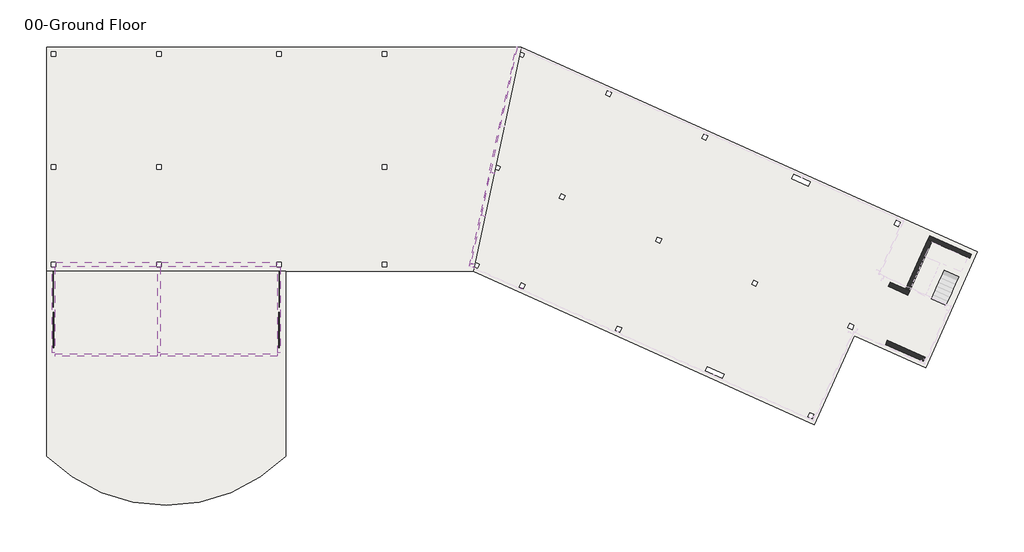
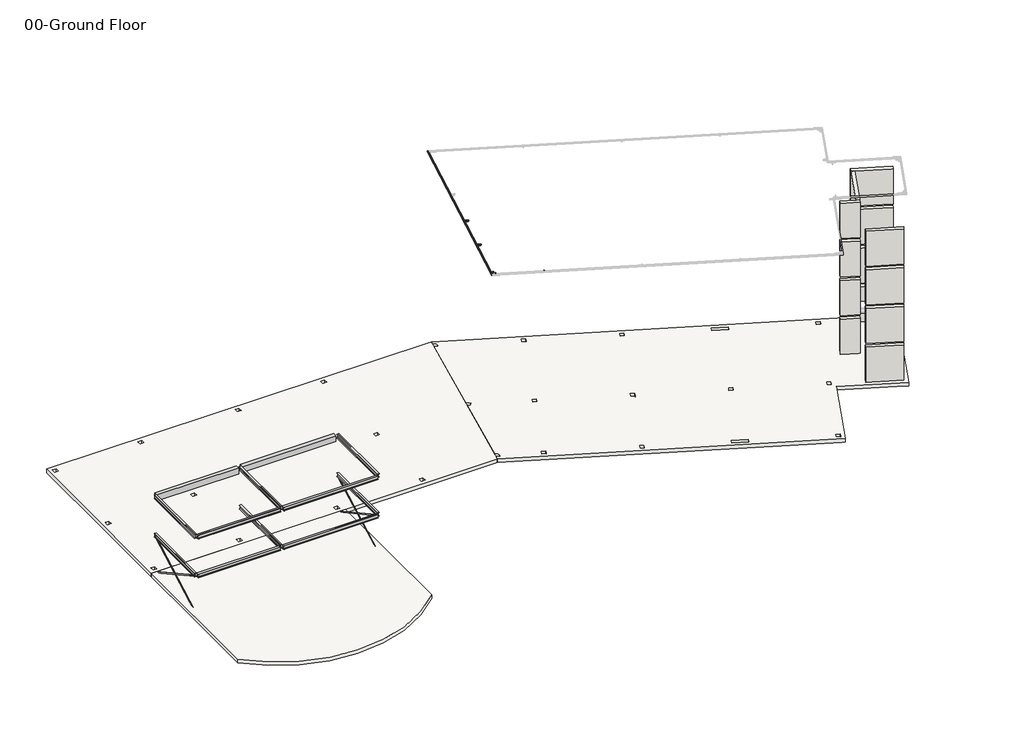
# One storey, part 1 of 3: 18 beams, 4 members, 4 walls, 3 slabs.
"""IFC4 building model written with IfcOpenShell, lengths in millimetres."""

from ifc_helpers import new_model, si_unit, frame, origin, origin_with_axes, place, context, project, spatial, polyline, circle_curve, ellipse_curve, outline, extrude, faceted_brep, transform, mapped, element, save
from ifc_brep_helpers import plane_surface, cylinder_surface, revolved_surface, advanced_brep
from components import hss_hollow_structural_section_hss3x2x1_8_139d3190, hss_hollow_structural_section_hss3x2x1_8_24952963, hss_hollow_structural_section_hss3x2x1_8_7ccaf686, hss_hollow_structural_section_hss3x2x1_8_c5a4428d, w_shapes_w12x26_597c9bcb, w_shapes_w12x26_85c0d87e, w_shapes_w12x26_268029d0, w_shapes_w12x26_8135fd55, flat_bars_fl_3_8x4_f1b121f7, flat_bars_fl_3_8x4_35c656aa, flat_bars_fl_3_8x4_188fb4ee, flat_bars_fl_3_8x4_168c0369

model = new_model("IFC4")

# Units and contexts
model_context = context("Model", 3, world=origin())
ifc_project = project(units=[si_unit("LENGTHUNIT", "METRE", prefix="MILLI")], contexts=[model_context])

# Site, building, storey
site = spatial("IfcSite", under=ifc_project)
building = spatial("IfcBuilding", under=site)
storey = spatial("IfcBuildingStorey", under=building, Name="00-Ground Floor", Elevation=0.0)

# Beams
placement = place(None, origin())
element("IfcBeam", 1, ObjectType="Concrete-Rectangular Beam : 12 x 24", at=placement, inside=storey, context=model_context, shape_type="SweptSolid", body=[
    extrude(outline(polyline([(152.4, -14147.8), (152.4, -13843.0), (6858.0, -13843.0), (6858.0, -14147.8), (152.4, -14147.8)])), frame((0.0, 0.0, 5892.8), z_axis=(0.0, 0.0, 1.0), x_axis=(1.0, 0.0, 0.0)), (0.0, 0.0, 1.0), 508.0),
])
element("IfcBeam", 2, ObjectType="Concrete-Rectangular Beam : 12 x 24", at=placement, inside=storey, context=model_context, shape_type="SweptSolid", body=[
    extrude(outline(polyline([(14846.3, -13843.0), (14846.3, -14147.8), (7162.8, -14147.8), (7162.8, -13843.0), (14846.3, -13843.0)])), frame((0.0, 0.0, 5892.8), z_axis=(0.0, 0.0, 1.0), x_axis=(1.0, 0.0, 0.0)), (0.0, 0.0, 1.0), 508.0),
])
hss_hollow_structural_section_hss3x2x1_8_shape = hss_hollow_structural_section_hss3x2x1_8_139d3190(model_context)
element("IfcBeam", 3, ObjectType="HSS-Hollow Structural Section : HSS3X2X1/8", at=placement, inside=storey, context=model_context, shape_type="MappedRepresentation", body=[
    mapped(hss_hollow_structural_section_hss3x2x1_8_shape, transform((28553.1839899, -10746.3611508, 16083.2409028), x_axis=(0.9777434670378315, -0.20951645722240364, 0.010980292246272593), y_axis=(0.20870511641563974, 0.9766389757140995, 0.05117113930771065), z_axis=(-0.021444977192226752, -0.04774060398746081, 0.9986295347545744))),
])
element("IfcBeam", 4, ObjectType="HSS-Hollow Structural Section : HSS3X2X1/8", at=placement, inside=storey, context=model_context, shape_type="MappedRepresentation", body=[
    mapped(hss_hollow_structural_section_hss3x2x1_8_shape, transform((29163.4667864, -7890.5329109, 16232.8724333), x_axis=(0.9777434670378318, -0.20951645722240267, 0.010980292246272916), y_axis=(0.20870511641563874, 0.9766389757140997, 0.05117113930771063), z_axis=(-0.021444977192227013, -0.04774060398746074, 0.9986295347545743))),
])
hss_hollow_structural_section_hss3x2x1_8_2_shape = hss_hollow_structural_section_hss3x2x1_8_24952963(model_context)
element("IfcBeam", 5, ObjectType="HSS-Hollow Structural Section : HSS3X2X1/8", at=placement, inside=storey, context=model_context, shape_type="MappedRepresentation", body=[
    mapped(hss_hollow_structural_section_hss3x2x1_8_2_shape, transform((31113.9933399, -15523.9075304, 15909.8368069), x_axis=(-0.40919454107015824, -0.9109449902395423, -0.05233595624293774), y_axis=(0.9121951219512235, -0.409756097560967, 0.0), z_axis=(-0.021444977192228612, -0.0477406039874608, 0.9986295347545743))),
])
hss_hollow_structural_section_hss3x2x1_8_3_shape = hss_hollow_structural_section_hss3x2x1_8_7ccaf686(model_context)
element("IfcBeam", 6, ObjectType="HSS-Hollow Structural Section : HSS3X2X1/8", at=placement, inside=storey, context=model_context, shape_type="MappedRepresentation", body=[
    mapped(hss_hollow_structural_section_hss3x2x1_8_3_shape, transform((27860.6590059, -13959.5725396, 15914.7581682), x_axis=(-0.9777434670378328, 0.209516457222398, -0.010980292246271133), y_axis=(-0.20870511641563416, -0.9766389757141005, -0.05117113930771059), z_axis=(-0.021444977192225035, -0.047740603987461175, 0.9986295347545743))),
])
hss_hollow_structural_section_hss3x2x1_8_4_shape = hss_hollow_structural_section_hss3x2x1_8_c5a4428d(model_context)
element("IfcBeam", 7, ObjectType="HSS-Hollow Structural Section : HSS3X2X1/8", at=placement, inside=storey, context=model_context, shape_type="MappedRepresentation", body=[
    mapped(hss_hollow_structural_section_hss3x2x1_8_4_shape, transform((27952.9662678, -14104.0086143, 15909.8354835), x_axis=(-0.40919454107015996, -0.9109449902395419, -0.05233595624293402), y_axis=(0.9121951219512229, -0.40975609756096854, 0.0), z_axis=(-0.02144497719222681, -0.0477406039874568, 0.9986295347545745))),
])
element("IfcBeam", 8, ObjectType="HSS-Hollow Structural Section : HSS5X2X1/8", at=placement, inside=storey, context=model_context, shape_type="AdvancedBrep", body=[
    advanced_brep(
    [(30775.5166497, 477.596911, 16705.6903584), (30771.4031294, 486.233955, 16700.1140396), (27647.3085375, -14133.0173345, 15934.13627), (27653.9377637, -14129.882092, 15940.3293994), (30803.5876534, 422.2762939, 16703.6485024), (27698.6644754, -14107.262053, 15942.3712554), (30807.9539155, 414.2019015, 16697.455373), (27705.5464435, -14103.5641587, 15936.7949366), (30810.4246857, 419.7023065, 16582.3988703), (27708.0172137, -14098.0637537, 15821.7384339), (30806.3111655, 428.3393506, 16576.8225515), (27701.3879876, -14101.1989963, 15815.5453044), (30778.2401618, 483.6599677, 16578.8644074), (27656.6612758, -14123.8190353, 15813.5034485), (30773.8738996, 491.73436, 16585.0575369), (27649.7793077, -14127.5169295, 15819.0797673), (30775.5798351, 477.7375739, 16702.7479963), (30803.6508388, 422.4169568, 16700.7061404), (27698.7276609, -14107.1213901, 15939.4288933), (27654.0009491, -14129.7414291, 15937.3870374), (30773.523075, 482.0560959, 16699.9598369), (27650.6863361, -14131.3090503, 15934.2904726), (30775.9938452, 487.5565009, 16584.9033342), (27653.1571062, -14125.8086453, 15819.23397), (30778.1769763, 483.5193048, 16581.8067695), (27656.5980903, -14123.9596982, 15816.4458106), (30806.24798, 428.1986877, 16579.7649136), (27701.3248021, -14101.3396592, 15818.4876665), (30808.3047401, 423.8801657, 16582.553073), (27704.6394151, -14099.7720379, 15821.5842312), (30805.8339699, 418.3797606, 16697.6095756), (27702.168645, -14105.2724429, 15936.6407339)],
    [
        (0, 1, ellipse_curve(frame((30775.6430206, 477.8782368, 16699.8056342), z_axis=(-0.89162974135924, -0.4509318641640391, -0.04070452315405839), x_axis=(-0.45225713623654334, 0.8912807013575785, 0.0328967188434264)), 9.3749569, 5.8928)),
        (1, 2),
        (2, 3, ellipse_curve(frame((27654.0641346, -14129.6007661, 15934.4446753), z_axis=(-0.452257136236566, 0.8912807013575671, 0.03289671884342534), x_axis=(0.8916297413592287, 0.45093186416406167, 0.04070452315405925)), 7.5766843, 5.8928)),
        (3, 0),
        (4, 0),
        (3, 5),
        (5, 4),
        (6, 4, ellipse_curve(frame((30803.7140243, 422.5576197, 16697.7637783), z_axis=(-0.89162974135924, -0.4509318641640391, -0.04070452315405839), x_axis=(-0.45225713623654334, 0.8912807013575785, 0.0328967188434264)), 9.3749569, 5.8928)),
        (5, 7, ellipse_curve(frame((27698.7908464, -14106.9807271, 15936.4865312), z_axis=(-0.452257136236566, 0.8912807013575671, 0.03289671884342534), x_axis=(0.8916297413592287, 0.45093186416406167, 0.04070452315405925)), 7.5766843, 5.8928)),
        (7, 6),
        (8, 6),
        (7, 9),
        (9, 8),
        (10, 8, ellipse_curve(frame((30806.1847945, 428.0580248, 16582.7072756), z_axis=(-0.89162974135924, -0.4509318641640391, -0.04070452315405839), x_axis=(-0.45225713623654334, 0.8912807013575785, 0.0328967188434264)), 9.3749569, 5.8928)),
        (9, 11, ellipse_curve(frame((27701.2616166, -14101.4803221, 15821.4300286), z_axis=(-0.452257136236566, 0.8912807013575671, 0.03289671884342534), x_axis=(0.8916297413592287, 0.45093186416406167, 0.04070452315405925)), 7.5766843, 5.8928)),
        (11, 10),
        (12, 10),
        (11, 13),
        (13, 12),
        (14, 12, ellipse_curve(frame((30778.1137908, 483.3786418, 16584.7491316), z_axis=(-0.89162974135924, -0.4509318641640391, -0.04070452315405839), x_axis=(-0.45225713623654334, 0.8912807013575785, 0.0328967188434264)), 9.3749569, 5.8928)),
        (13, 15, ellipse_curve(frame((27656.5349048, -14124.1003611, 15819.3881726), z_axis=(-0.452257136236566, 0.8912807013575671, 0.03289671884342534), x_axis=(0.8916297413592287, 0.45093186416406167, 0.04070452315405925)), 7.5766843, 5.8928)),
        (15, 14),
        (1, 14),
        (15, 2),
        (16, 17),
        (17, 18),
        (18, 19),
        (19, 16),
        (20, 16, ellipse_curve(frame((30775.6430206, 477.8782368, 16699.8056342), z_axis=(0.89162974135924, 0.4509318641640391, 0.04070452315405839), x_axis=(0.45225713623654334, -0.8912807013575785, -0.0328967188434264)), 4.6874785, 2.9464)),
        (19, 21, ellipse_curve(frame((27654.0641346, -14129.6007661, 15934.4446753), z_axis=(0.452257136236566, -0.8912807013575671, -0.03289671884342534), x_axis=(-0.8916297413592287, -0.45093186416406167, -0.04070452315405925)), 3.7883422, 2.9464)),
        (21, 20),
        (22, 20),
        (21, 23),
        (23, 22),
        (24, 22, ellipse_curve(frame((30778.1137908, 483.3786418, 16584.7491316), z_axis=(0.89162974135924, 0.4509318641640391, 0.04070452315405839), x_axis=(0.45225713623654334, -0.8912807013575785, -0.0328967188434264)), 4.6874785, 2.9464)),
        (23, 25, ellipse_curve(frame((27656.5349048, -14124.1003611, 15819.3881726), z_axis=(0.452257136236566, -0.8912807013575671, -0.03289671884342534), x_axis=(-0.8916297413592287, -0.45093186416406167, -0.04070452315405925)), 3.7883422, 2.9464)),
        (25, 24),
        (26, 24),
        (25, 27),
        (27, 26),
        (28, 26, ellipse_curve(frame((30806.1847945, 428.0580248, 16582.7072756), z_axis=(0.89162974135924, 0.4509318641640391, 0.04070452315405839), x_axis=(0.45225713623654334, -0.8912807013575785, -0.0328967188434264)), 4.6874785, 2.9464)),
        (27, 29, ellipse_curve(frame((27701.2616166, -14101.4803221, 15821.4300286), z_axis=(0.452257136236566, -0.8912807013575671, -0.03289671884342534), x_axis=(-0.8916297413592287, -0.45093186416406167, -0.04070452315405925)), 3.7883422, 2.9464)),
        (29, 28),
        (30, 28),
        (29, 31),
        (31, 30),
        (17, 30, ellipse_curve(frame((30803.7140243, 422.5576197, 16697.7637783), z_axis=(0.89162974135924, 0.4509318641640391, 0.04070452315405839), x_axis=(0.45225713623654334, -0.8912807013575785, -0.0328967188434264)), 4.6874785, 2.9464)),
        (31, 18, ellipse_curve(frame((27698.7908464, -14106.9807271, 15936.4865312), z_axis=(0.452257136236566, -0.8912807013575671, -0.03289671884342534), x_axis=(-0.8916297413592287, -0.45093186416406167, -0.04070452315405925)), 3.7883422, 2.9464)),
    ],
    [
        cylinder_surface(frame((30770.6054851, 454.3050077, 16698.5705115), z_axis=(0.2087051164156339, 0.9766389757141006, 0.05117113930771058), x_axis=(0.9777434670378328, -0.20951645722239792, 0.010980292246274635)), 5.8928),
        plane_surface(frame((30770.4791142, 454.0236819, 16704.4552356), z_axis=(-0.02144497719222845, -0.04774060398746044, 0.9986295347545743), x_axis=(-0.2087051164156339, -0.9766389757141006, -0.05117113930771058))),
        cylinder_surface(frame((30808.7515598, 446.1308488, 16698.998901), z_axis=(0.2087051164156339, 0.9766389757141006, 0.05117113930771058), x_axis=(0.9777434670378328, -0.20951645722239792, 0.010980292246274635)), 5.8928),
        plane_surface(frame((30814.5132065, 444.8962102, 16699.0636057), z_axis=(0.9777434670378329, -0.20951645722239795, 0.010980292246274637), x_axis=(-0.2087051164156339, -0.9766389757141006, -0.05117113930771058))),
        cylinder_surface(frame((30811.22233, 451.6312539, 16583.9423984), z_axis=(0.2087051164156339, 0.9766389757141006, 0.05117113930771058), x_axis=(0.9777434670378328, -0.20951645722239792, 0.010980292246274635)), 5.8928),
        plane_surface(frame((30811.348701, 451.9125797, 16578.0576742), z_axis=(0.02144497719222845, 0.04774060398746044, -0.9986295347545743), x_axis=(-0.2087051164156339, -0.9766389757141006, -0.05117113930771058))),
        cylinder_surface(frame((30773.0762553, 459.8054127, 16583.5140088), z_axis=(0.2087051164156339, 0.9766389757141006, 0.05117113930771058), x_axis=(0.9777434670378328, -0.20951645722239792, 0.010980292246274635)), 5.8928),
        plane_surface(frame((30767.3146086, 461.0400513, 16583.4493042), z_axis=(-0.9777434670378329, 0.20951645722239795, -0.010980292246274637), x_axis=(-0.2087051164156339, -0.9766389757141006, -0.05117113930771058))),
        plane_surface(frame((30808.6883744, 445.9901859, 16701.9412631), z_axis=(0.02144497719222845, 0.04774060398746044, -0.9986295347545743), x_axis=(-0.2087051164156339, -0.9766389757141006, -0.05117113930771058))),
        revolved_surface(polyline([(27656.44798275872, -14132.54368889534, 15934.355177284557), (30779.284721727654, 480.82145733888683, 16700.024541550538)]), (30770.6054851, 454.3050077, 16698.5705115), (-0.2087051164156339, -0.9766389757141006, -0.05117113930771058)),
        plane_surface(frame((30767.7246618, 454.922327, 16698.5381592), z_axis=(0.9777434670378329, -0.20951645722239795, 0.010980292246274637), x_axis=(-0.2087051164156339, -0.9766389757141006, -0.05117113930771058))),
        revolved_surface(polyline([(27658.91875295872, -14127.04328389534, 15819.29867458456), (30781.75549192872, 486.3218623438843, 16584.968038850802)]), (30773.0762553, 459.8054127, 16583.5140088), (-0.2087051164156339, -0.9766389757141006, -0.05117113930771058)),
        plane_surface(frame((30773.1394408, 459.9460756, 16580.5716468), z_axis=(-0.02144497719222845, -0.04774060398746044, 0.9986295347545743), x_axis=(-0.2087051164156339, -0.9766389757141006, -0.05117113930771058))),
        revolved_surface(polyline([(27703.64546471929, -14104.423244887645, 15821.340530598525), (30809.826495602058, 431.00124534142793, 16582.92618300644)]), (30811.22233, 451.6312539, 16583.9423984), (-0.2087051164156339, -0.9766389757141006, -0.05117113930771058)),
        plane_surface(frame((30814.1031534, 451.0139346, 16583.9747507), z_axis=(-0.9777434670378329, 0.20951645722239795, -0.010980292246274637), x_axis=(-0.2087051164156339, -0.9766389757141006, -0.05117113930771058))),
        revolved_surface(polyline([(27701.174694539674, -14109.923649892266, 15936.397033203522), (30807.355725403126, 425.5008402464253, 16697.9826856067)]), (30808.7515598, 446.1308488, 16698.998901), (-0.2087051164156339, -0.9766389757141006, -0.05117113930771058)),
        plane_surface(frame((27703.7859653, -14107.4833186, 16018.7752312), z_axis=(0.4522571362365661, -0.8912807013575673, -0.03289671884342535), x_axis=(0.8918875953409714, 0.45194939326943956, 0.016681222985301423))),
        plane_surface(frame((30806.1934373, 410.2827416, 16779.4356677), z_axis=(0.8916297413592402, 0.4509318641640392, 0.0407045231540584), x_axis=(0.4527652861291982, -0.8880191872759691, -0.08015933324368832))),
    ],
    [
        (0, [[1, 2, 3, 4]]),
        (1, [[5, -4, 6, 7]]),
        (2, [[8, -7, 9, 10]]),
        (3, [[11, -10, 12, 13]]),
        (4, [[14, -13, 15, 16]]),
        (5, [[17, -16, 18, 19]]),
        (6, [[20, -19, 21, 22]]),
        (7, [[23, -22, 24, -2]]),
        (8, [[25, 26, 27, 28]]),
        (9, [[29, -28, 30, 31]]),
        (10, [[32, -31, 33, 34]]),
        (11, [[35, -34, 36, 37]]),
        (12, [[38, -37, 39, 40]]),
        (13, [[41, -40, 42, 43]]),
        (14, [[44, -43, 45, 46]]),
        (15, [[47, -46, 48, -26]]),
        (16, [[-24, -21, -18, -15, -12, -9, -6, -3], [-48, -45, -42, -39, -36, -33, -30, -27]]),
        (17, [[-1, -5, -8, -11, -14, -17, -20, -23], [-25, -29, -32, -35, -38, -41, -44, -47]]),
    ],
),
])
w_shapes_w12x26_shape = w_shapes_w12x26_597c9bcb(model_context)
element("IfcBeam", 9, ObjectType="W Shapes : W12X26", at=placement, inside=storey, context=model_context, shape_type="MappedRepresentation", body=[
    mapped(w_shapes_w12x26_shape, transform((14998.7, -16998.95, 2994.66), x_axis=(0.0, -1.0, 0.0), y_axis=(1.0, 0.0, 0.0), z_axis=(0.0, 0.0, 1.0))),
])
element("IfcBeam", 10, ObjectType="W Shapes : W12X26", at=placement, inside=storey, context=model_context, shape_type="MappedRepresentation", body=[
    mapped(w_shapes_w12x26_shape, transform((14998.7, -16998.95, 6347.46), x_axis=(0.0, -1.0, 0.0), y_axis=(1.0, 0.0, 0.0), z_axis=(0.0, 0.0, 1.0))),
])
w_shapes_w12x26_2_shape = w_shapes_w12x26_85c0d87e(model_context)
element("IfcBeam", 11, ObjectType="W Shapes : W12X26", at=placement, inside=storey, context=model_context, shape_type="MappedRepresentation", body=[
    mapped(w_shapes_w12x26_2_shape, transform((11004.55, -20002.5, 2994.66), x_axis=(-1.0, 0.0, 0.0), y_axis=(0.0, -1.0, 0.0), z_axis=(0.0, 0.0, 1.0))),
])
element("IfcBeam", 12, ObjectType="W Shapes : W12X26", at=placement, inside=storey, context=model_context, shape_type="MappedRepresentation", body=[
    mapped(w_shapes_w12x26_2_shape, transform((11004.55, -20002.5, 6347.46), x_axis=(-1.0, 0.0, 0.0), y_axis=(0.0, -1.0, 0.0), z_axis=(0.0, 0.0, 1.0))),
])
w_shapes_w12x26_3_shape = w_shapes_w12x26_268029d0(model_context)
element("IfcBeam", 13, ObjectType="W Shapes : W12X26", at=placement, inside=storey, context=model_context, shape_type="MappedRepresentation", body=[
    mapped(w_shapes_w12x26_3_shape, transform((7010.4, -16998.95, 2994.66), x_axis=(0.0, 1.0, 0.0), y_axis=(-1.0, 0.0, 0.0), z_axis=(0.0, 0.0, 1.0))),
])
element("IfcBeam", 14, ObjectType="W Shapes : W12X26", at=placement, inside=storey, context=model_context, shape_type="MappedRepresentation", body=[
    mapped(w_shapes_w12x26_3_shape, transform((0.0, -16998.95, 2994.66), x_axis=(0.0, 1.0, 0.0), y_axis=(-1.0, 0.0, 0.0), z_axis=(0.0, 0.0, 1.0))),
])
element("IfcBeam", 15, ObjectType="W Shapes : W12X26", at=placement, inside=storey, context=model_context, shape_type="MappedRepresentation", body=[
    mapped(w_shapes_w12x26_3_shape, transform((7010.4, -16998.95, 6347.46), x_axis=(0.0, 1.0, 0.0), y_axis=(-1.0, 0.0, 0.0), z_axis=(0.0, 0.0, 1.0))),
])
element("IfcBeam", 16, ObjectType="W Shapes : W12X26", at=placement, inside=storey, context=model_context, shape_type="MappedRepresentation", body=[
    mapped(w_shapes_w12x26_3_shape, transform((0.0, -16998.95, 6347.46), x_axis=(0.0, 1.0, 0.0), y_axis=(-1.0, 0.0, 0.0), z_axis=(0.0, 0.0, 1.0))),
])
w_shapes_w12x26_4_shape = w_shapes_w12x26_8135fd55(model_context)
element("IfcBeam", 17, ObjectType="W Shapes : W12X26", at=placement, inside=storey, context=model_context, shape_type="MappedRepresentation", body=[
    mapped(w_shapes_w12x26_4_shape, transform((3505.2, -20002.5, 2994.66), x_axis=(-1.0, 0.0, 0.0), y_axis=(0.0, -1.0, 0.0), z_axis=(0.0, 0.0, 1.0))),
])
element("IfcBeam", 18, ObjectType="W Shapes : W12X26", at=placement, inside=storey, context=model_context, shape_type="MappedRepresentation", body=[
    mapped(w_shapes_w12x26_4_shape, transform((3505.2, -20002.5, 6347.46), x_axis=(-1.0, 0.0, 0.0), y_axis=(0.0, -1.0, 0.0), z_axis=(0.0, 0.0, 1.0))),
])

# Members
flat_bars_fl_3_8x4_shape = flat_bars_fl_3_8x4_f1b121f7(model_context)
element("IfcMember", 19, ObjectType="Flat Bars : FL 3/8X4", at=placement, inside=storey, context=model_context, shape_type="MappedRepresentation", body=[
    mapped(flat_bars_fl_3_8x4_shape, transform((14998.7, -16998.95, 1344.93), x_axis=(0.0, -0.8764896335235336, 0.48142073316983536), y_axis=(1.0, 0.0, 0.0), z_axis=(0.0, 0.48142073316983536, 0.8764896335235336))),
])
flat_bars_fl_3_8x4_2_shape = flat_bars_fl_3_8x4_35c656aa(model_context)
element("IfcMember", 20, ObjectType="Flat Bars : FL 3/8X4", at=placement, inside=storey, context=model_context, shape_type="MappedRepresentation", body=[
    mapped(flat_bars_fl_3_8x4_2_shape, transform((14989.175, -16998.95, 1344.93), x_axis=(0.0, 0.8764896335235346, 0.4814207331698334), y_axis=(-1.0, 0.0, 0.0), z_axis=(0.0, -0.4814207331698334, 0.8764896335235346))),
])
flat_bars_fl_3_8x4_3_shape = flat_bars_fl_3_8x4_188fb4ee(model_context)
element("IfcMember", 21, ObjectType="Flat Bars : FL 3/8X4", at=placement, inside=storey, context=model_context, shape_type="MappedRepresentation", body=[
    mapped(flat_bars_fl_3_8x4_3_shape, transform((9.525, -16998.95, 1344.93), x_axis=(0.0, 0.8764896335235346, 0.4814207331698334), y_axis=(-1.0, 0.0, 0.0), z_axis=(0.0, -0.4814207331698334, 0.8764896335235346))),
])
flat_bars_fl_3_8x4_4_shape = flat_bars_fl_3_8x4_168c0369(model_context)
element("IfcMember", 22, ObjectType="Flat Bars : FL 3/8X4", at=placement, inside=storey, context=model_context, shape_type="MappedRepresentation", body=[
    mapped(flat_bars_fl_3_8x4_4_shape, transform((0.0, -16998.95, 1344.93), x_axis=(0.0, -0.8764896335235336, 0.48142073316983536), y_axis=(1.0, 0.0, 0.0), z_axis=(0.0, 0.48142073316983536, 0.8764896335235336))),
])

# Slabs
element("IfcSlab", 23, ObjectType="RC Slab 12\"", at=placement, inside=storey, context=model_context, shape_type="Brep", body=[
    faceted_brep([(-457.2, 457.2, -304.8), (7010.4, 457.2, -304.8), (14998.7, 457.2, -304.8), (22009.1, 457.2, -304.8), (31098.7387393, 457.2, -304.8), (30902.7958822, -457.2, -304.8), (28099.7244536, -13538.2, -304.8), (27903.7815965, -14452.6, -304.8), (22009.1, -14452.6, -304.8), (15455.9, -14452.6, -304.8), (-457.2, -14452.6, -304.8), (-457.2, -13995.4, -304.8), (-457.2, -7505.7, -304.8), (152.4, -152.4, -304.8), (152.4, 152.4, -304.8), (-152.4, 152.4, -304.8), (-152.4, -152.4, -304.8), (7162.8, -152.4, -304.8), (7162.8, 152.4, -304.8), (6858.0, 152.4, -304.8), (6858.0, -152.4, -304.8), (15151.1, -152.4, -304.8), (15151.1, 152.4, -304.8), (14846.3, 152.4, -304.8), (14846.3, -152.4, -304.8), (22161.5, -152.4, -304.8), (22161.5, 152.4, -304.8), (21856.7, 152.4, -304.8), (21856.7, -152.4, -304.8), (22161.5, -7658.1, -304.8), (22161.5, -7353.3, -304.8), (21856.7, -7353.3, -304.8), (21856.7, -7658.1, -304.8), (7162.8, -7658.1, -304.8), (7162.8, -7353.3, -304.8), (6858.0, -7353.3, -304.8), (6858.0, -7658.1, -304.8), (152.4, -7658.1, -304.8), (152.4, -7353.3, -304.8), (-152.4, -7353.3, -304.8), (-152.4, -7658.1, -304.8), (152.4, -14147.8, -304.8), (152.4, -13843.0, -304.8), (-152.4, -13843.0, -304.8), (-152.4, -14147.8, -304.8), (15151.1, -14147.8, -304.8), (15151.1, -13843.0, -304.8), (14846.3, -13843.0, -304.8), (14846.3, -14147.8, -304.8), (22161.5, -14147.8, -304.8), (22161.5, -13843.0, -304.8), (21856.7, -13843.0, -304.8), (21856.7, -14147.8, -304.8), (7162.8, -14147.8, -304.8), (7162.8, -13843.0, -304.8), (6858.0, -13843.0, -304.8), (6858.0, -14147.8, -304.8), (31098.7387393, 457.2, 0.0), (-457.2, 457.2, 0.0), (-457.2, -14452.6, 0.0), (15455.9, -14452.6, 0.0), (27903.7815965, -14452.6, 0.0), (152.4, 152.4, 0.0), (152.4, -152.4, 0.0), (-152.4, -152.4, 0.0), (-152.4, 152.4, 0.0), (7162.8, 152.4, 0.0), (7162.8, -152.4, 0.0), (6858.0, -152.4, 0.0), (6858.0, 152.4, 0.0), (15151.1, 152.4, 0.0), (15151.1, -152.4, 0.0), (14846.3, -152.4, 0.0), (14846.3, 152.4, 0.0), (22161.5, 152.4, 0.0), (22161.5, -152.4, 0.0), (21856.7, -152.4, 0.0), (21856.7, 152.4, 0.0), (22161.5, -7353.3, 0.0), (22161.5, -7658.1, 0.0), (21856.7, -7658.1, 0.0), (21856.7, -7353.3, 0.0), (7162.8, -7353.3, 0.0), (7162.8, -7658.1, 0.0), (6858.0, -7658.1, 0.0), (6858.0, -7353.3, 0.0), (152.4, -7353.3, 0.0), (152.4, -7658.1, 0.0), (-152.4, -7658.1, 0.0), (-152.4, -7353.3, 0.0), (152.4, -13843.0, 0.0), (152.4, -14147.8, 0.0), (-152.4, -14147.8, 0.0), (-152.4, -13843.0, 0.0), (15151.1, -13843.0, 0.0), (15151.1, -14147.8, 0.0), (14846.3, -14147.8, 0.0), (14846.3, -13843.0, 0.0), (22161.5, -13843.0, 0.0), (22161.5, -14147.8, 0.0), (21856.7, -14147.8, 0.0), (21856.7, -13843.0, 0.0), (7162.8, -13843.0, 0.0), (7162.8, -14147.8, 0.0), (6858.0, -14147.8, 0.0), (6858.0, -13843.0, 0.0)], [[[0, 1, 2, 3, 4, 5, 6, 7, 8, 9, 10, 11, 12], [13, 14, 15, 16], [17, 18, 19, 20], [21, 22, 23, 24], [25, 26, 27, 28], [29, 30, 31, 32], [33, 34, 35, 36], [37, 38, 39, 40], [41, 42, 43, 44], [45, 46, 47, 48], [49, 50, 51, 52], [53, 54, 55, 56]], [[57, 58, 59, 60, 61], [62, 63, 64, 65], [66, 67, 68, 69], [70, 71, 72, 73], [74, 75, 76, 77], [78, 79, 80, 81], [82, 83, 84, 85], [86, 87, 88, 89], [90, 91, 92, 93], [94, 95, 96, 97], [98, 99, 100, 101], [102, 103, 104, 105]], [[4, 3, 2, 1, 0, 58, 57]], [[7, 6, 5, 4, 57, 61]], [[10, 9, 8, 7, 61, 60, 59]], [[0, 12, 11, 10, 59, 58]], [[13, 63, 62, 14]], [[63, 13, 16, 64]], [[64, 16, 15, 65]], [[65, 15, 14, 62]], [[17, 67, 66, 18]], [[67, 17, 20, 68]], [[68, 20, 19, 69]], [[69, 19, 18, 66]], [[21, 71, 70, 22]], [[71, 21, 24, 72]], [[72, 24, 23, 73]], [[73, 23, 22, 70]], [[25, 75, 74, 26]], [[75, 25, 28, 76]], [[76, 28, 27, 77]], [[77, 27, 26, 74]], [[29, 79, 78, 30]], [[79, 29, 32, 80]], [[80, 32, 31, 81]], [[81, 31, 30, 78]], [[33, 83, 82, 34]], [[83, 33, 36, 84]], [[84, 36, 35, 85]], [[85, 35, 34, 82]], [[37, 87, 86, 38]], [[87, 37, 40, 88]], [[88, 40, 39, 89]], [[89, 39, 38, 86]], [[41, 91, 90, 42]], [[91, 41, 44, 92]], [[92, 44, 43, 93]], [[93, 43, 42, 90]], [[45, 95, 94, 46]], [[95, 45, 48, 96]], [[96, 48, 47, 97]], [[97, 47, 46, 94]], [[49, 99, 98, 50]], [[99, 49, 52, 100]], [[100, 52, 51, 101]], [[101, 51, 50, 98]], [[53, 103, 102, 54]], [[103, 53, 56, 104]], [[104, 56, 55, 105]], [[105, 55, 54, 102]]]),
])
element("IfcSlab", 24, ObjectType="RC Slab 12\"", at=placement, inside=storey, context=model_context, shape_type="Brep", body=[
    faceted_brep([(61413.0546278, -13159.9258537, -304.8), (61308.976579, -13391.6234146, -304.8), (57962.8673107, -20840.7, -304.8), (57731.1697498, -20736.6219512, -304.8), (53236.2370668, -18717.5078049, -304.8), (50577.0429205, -24637.3804878, -304.8), (50345.3453595, -24533.302439, -304.8), (37370.2819449, -18704.9317073, -304.8), (27903.7815965, -14452.6, -304.8), (27969.0988162, -14147.786308, -304.8), (28217.3432689, -14259.3121951, -304.8), (28342.2369275, -13981.275122, -304.8), (28034.4045592, -13843.0124873, -304.8), (28099.7244536, -13538.2, -304.8), (29359.7488162, -7658.086308, -304.8), (29607.9932689, -7769.6121951, -304.8), (29732.8869275, -7491.575122, -304.8), (29425.0545592, -7353.3124873, -304.8), (30902.7958822, -457.2, -304.8), (30968.1131019, -152.386308, -304.8), (31216.3575546, -263.9121951, -304.8), (31341.2512132, 14.124878, -304.8), (31033.4188449, 152.3875127, -304.8), (31098.7387393, 457.2, -304.8), (43479.6634083, -5104.284878, -304.8), (37098.9356034, -2572.2146341, -304.8), (36820.8985303, -2447.3209756, -304.8), (36696.0048717, -2725.3580488, -304.8), (36974.0419449, -2850.2517073, -304.8), (43493.7882864, -5444.7687805, -304.8), (43215.7512132, -5319.875122, -304.8), (43090.8575546, -5597.9121951, -304.8), (43368.8946278, -5722.8058537, -304.8), (56283.4936522, -11189.8770732, -304.8), (56005.456579, -11064.9834146, -304.8), (55880.5629205, -11343.0204878, -304.8), (56158.5999937, -11467.9141463, -304.8), (53207.9873107, -18036.54, -304.8), (52929.9502376, -17911.6463415, -304.8), (52805.056579, -18189.6834146, -304.8), (53083.0936522, -18314.5770732, -304.8), (50548.7931644, -23956.4126829, -304.8), (50270.7560912, -23831.5190244, -304.8), (50145.8624327, -24109.5560976, -304.8), (50423.8995059, -24234.4497561, -304.8), (37759.0877985, -18211.3043902, -304.8), (37481.0507254, -18086.4107317, -304.8), (37356.1570668, -18364.4478049, -304.8), (37634.19414, -18489.3414634, -304.8), (31364.2351156, -15338.7502439, -304.8), (31086.1980425, -15213.8565854, -304.8), (30961.3043839, -15491.8936585, -304.8), (31239.3414571, -15616.7873171, -304.8), (34023.429262, -9418.877561, -304.8), (33745.3921888, -9293.9839024, -304.8), (33620.4985303, -9572.0209756, -304.8), (33898.5356034, -9696.9146341, -304.8), (40418.2819449, -12291.4317073, -304.8), (40140.2448717, -12166.5380488, -304.8), (40015.3512132, -12444.575122, -304.8), (40293.3882864, -12569.4687805, -304.8), (46813.1346278, -15163.9858537, -304.8), (46535.0975546, -15039.0921951, -304.8), (46410.2038961, -15317.1292683, -304.8), (46688.2409693, -15442.0229268, -304.8), (43333.95414, -21049.6614634, -304.8), (44446.1024327, -21549.2360976, -304.8), (44570.9960912, -21271.1990244, -304.8), (43458.8477985, -20771.6243902, -304.8), (49068.6546278, -8283.1258537, -304.8), (50180.8029205, -8782.7004878, -304.8), (50305.696579, -8504.6634146, -304.8), (49193.5482864, -8005.0887805, -304.8), (57962.8673107, -20840.7, 0.0), (61413.0546278, -13159.9258537, 0.0), (31098.7387393, 457.2, 0.0), (31033.4244536, 152.4, 0.0), (31341.2512132, 14.124878, 0.0), (31216.3575546, -263.9121951, 0.0), (30968.1131019, -152.386308, 0.0), (29425.0601679, -7353.3, 0.0), (29732.8869275, -7491.575122, 0.0), (29607.9932689, -7769.6121951, 0.0), (29359.7488162, -7658.086308, 0.0), (28034.4101679, -13843.0, 0.0), (28342.2369275, -13981.275122, 0.0), (28217.3432689, -14259.3121951, 0.0), (27969.0988162, -14147.786308, 0.0), (27903.7815965, -14452.6, 0.0), (50577.0429205, -24637.3804878, 0.0), (53236.2370668, -18717.5078049, 0.0), (36820.8985303, -2447.3209756, 0.0), (37098.9356034, -2572.2146341, 0.0), (36974.0419449, -2850.2517073, 0.0), (36696.0048717, -2725.3580488, 0.0), (43215.7512132, -5319.875122, 0.0), (43493.7882864, -5444.7687805, 0.0), (43368.8946278, -5722.8058537, 0.0), (43090.8575546, -5597.9121951, 0.0), (56005.456579, -11064.9834146, 0.0), (56283.4936522, -11189.8770732, 0.0), (56158.5999937, -11467.9141463, 0.0), (55880.5629205, -11343.0204878, 0.0), (52929.9502376, -17911.6463415, 0.0), (53207.9873107, -18036.54, 0.0), (53083.0936522, -18314.5770732, 0.0), (52805.056579, -18189.6834146, 0.0), (50270.7560912, -23831.5190244, 0.0), (50548.7931644, -23956.4126829, 0.0), (50423.8995059, -24234.4497561, 0.0), (50145.8624327, -24109.5560976, 0.0), (37481.0507254, -18086.4107317, 0.0), (37759.0877985, -18211.3043902, 0.0), (37634.19414, -18489.3414634, 0.0), (37356.1570668, -18364.4478049, 0.0), (31086.1980425, -15213.8565854, 0.0), (31364.2351156, -15338.7502439, 0.0), (31239.3414571, -15616.7873171, 0.0), (30961.3043839, -15491.8936585, 0.0), (33745.3921888, -9293.9839024, 0.0), (34023.429262, -9418.877561, 0.0), (33898.5356034, -9696.9146341, 0.0), (33620.4985303, -9572.0209756, 0.0), (40140.2448717, -12166.5380488, 0.0), (40418.2819449, -12291.4317073, 0.0), (40293.3882864, -12569.4687805, 0.0), (40015.3512132, -12444.575122, 0.0), (46535.0975546, -15039.0921951, 0.0), (46813.1346278, -15163.9858537, 0.0), (46688.2409693, -15442.0229268, 0.0), (46410.2038961, -15317.1292683, 0.0), (44446.1024327, -21549.2360976, 0.0), (43333.95414, -21049.6614634, 0.0), (43458.8477985, -20771.6243902, 0.0), (44570.9960912, -21271.1990244, 0.0), (50180.8029205, -8782.7004878, 0.0), (49068.6546278, -8283.1258537, 0.0), (49193.5482864, -8005.0887805, 0.0), (50305.696579, -8504.6634146, 0.0)], [[[0, 1, 2, 3, 4, 5, 6, 7, 8, 9, 10, 11, 12, 13, 14, 15, 16, 17, 18, 19, 20, 21, 22, 23, 24], [25, 26, 27, 28], [29, 30, 31, 32], [33, 34, 35, 36], [37, 38, 39, 40], [41, 42, 43, 44], [45, 46, 47, 48], [49, 50, 51, 52], [53, 54, 55, 56], [57, 58, 59, 60], [61, 62, 63, 64], [65, 66, 67, 68], [69, 70, 71, 72]], [[73, 74, 75, 76, 77, 78, 79, 80, 81, 82, 83, 84, 85, 86, 87, 88, 89, 90], [91, 92, 93, 94], [95, 96, 97, 98], [99, 100, 101, 102], [103, 104, 105, 106], [107, 108, 109, 110], [111, 112, 113, 114], [115, 116, 117, 118], [119, 120, 121, 122], [123, 124, 125, 126], [127, 128, 129, 130], [131, 132, 133, 134], [135, 136, 137, 138]], [[2, 1, 0, 74, 73]], [[4, 3, 2, 73, 90]], [[5, 4, 90, 89]], [[8, 7, 6, 5, 89, 88]], [[8, 88, 87, 9]], [[75, 23, 22, 76]], [[12, 84, 83, 14, 13]], [[79, 19, 18, 17, 80]], [[0, 24, 23, 75, 74]], [[11, 85, 84, 12]], [[85, 11, 10, 86]], [[86, 10, 9, 87]], [[21, 77, 76, 22]], [[77, 21, 20, 78]], [[78, 20, 19, 79]], [[16, 81, 80, 17]], [[81, 16, 15, 82]], [[82, 15, 14, 83]], [[25, 92, 91, 26]], [[92, 25, 28, 93]], [[93, 28, 27, 94]], [[94, 27, 26, 91]], [[29, 96, 95, 30]], [[96, 29, 32, 97]], [[97, 32, 31, 98]], [[98, 31, 30, 95]], [[33, 100, 99, 34]], [[100, 33, 36, 101]], [[101, 36, 35, 102]], [[102, 35, 34, 99]], [[37, 104, 103, 38]], [[104, 37, 40, 105]], [[105, 40, 39, 106]], [[106, 39, 38, 103]], [[41, 108, 107, 42]], [[108, 41, 44, 109]], [[109, 44, 43, 110]], [[110, 43, 42, 107]], [[45, 112, 111, 46]], [[112, 45, 48, 113]], [[113, 48, 47, 114]], [[114, 47, 46, 111]], [[49, 116, 115, 50]], [[116, 49, 52, 117]], [[117, 52, 51, 118]], [[118, 51, 50, 115]], [[53, 120, 119, 54]], [[120, 53, 56, 121]], [[121, 56, 55, 122]], [[122, 55, 54, 119]], [[57, 124, 123, 58]], [[124, 57, 60, 125]], [[125, 60, 59, 126]], [[126, 59, 58, 123]], [[61, 128, 127, 62]], [[128, 61, 64, 129]], [[129, 64, 63, 130]], [[130, 63, 62, 127]], [[65, 132, 131, 66]], [[67, 134, 133, 68]], [[66, 131, 134, 67]], [[132, 65, 68, 133]], [[69, 136, 135, 70]], [[71, 138, 137, 72]], [[70, 135, 138, 71]], [[136, 69, 72, 137]]]),
])
element("IfcSlab", 25, ObjectType="RC Slab 12\"", at=placement, inside=storey, context=model_context, shape_type="AdvancedBrep", body=[
    advanced_brep(
    [(15455.9, -26723.3402351, -304.8), (-457.2, -26723.3402351, -304.8), (-457.2, -20002.5, -304.8), (-457.2, -14452.6, -304.8), (15455.9, -14452.6, -304.8), (15455.9, -20002.5, -304.8), (15455.9, -26723.3402351, 0.0), (15455.9, -14452.6, 0.0), (-457.2, -14452.6, 0.0), (-457.2, -26723.3402351, 0.0)],
    [
        (0, 1, circle_curve(frame((7499.35, -18686.6508475, -304.8), z_axis=(0.0, 0.0, -1.0), x_axis=(1.0, 0.0, 0.0)), 11309.0699979)),
        (1, 2),
        (2, 3),
        (3, 4),
        (4, 5),
        (5, 0),
        (6, 7),
        (7, 8),
        (8, 9),
        (9, 6, circle_curve(frame((7499.35, -18686.6508475, 0.0), z_axis=(0.0, 0.0, 1.0), x_axis=(1.0, 0.0, 0.0)), 11309.0699979)),
        (1, 9),
        (8, 3),
        (7, 4),
        (6, 0),
    ],
    [
        plane_surface(frame((18808.4199979, -18686.6508475, -304.8), z_axis=(0.0, 0.0, -1.0), x_axis=(0.0, -1.0, 0.0))),
        plane_surface(frame((18808.4199979, -18686.6508475, 0.0), z_axis=(0.0, 0.0, 1.0), x_axis=(0.0, 1.0, 0.0))),
        plane_surface(frame((-457.2, -26723.3402351, -304.8), z_axis=(-1.0, 0.0, 0.0), x_axis=(0.0, 0.0, 1.0))),
        plane_surface(frame((-457.2, -14452.6, -304.8), z_axis=(0.0, 1.0, 0.0), x_axis=(0.0, 0.0, 1.0))),
        plane_surface(frame((15455.9, -14452.6, -304.8), z_axis=(1.0, 0.0, 0.0), x_axis=(0.0, 0.0, 1.0))),
        cylinder_surface(frame((7499.35, -18686.6508475, 0.0), z_axis=(0.0, 0.0, -1.0), x_axis=(1.0, 0.0, 0.0)), 11309.0699979),
    ],
    [
        (0, [[1, 2, 3, 4, 5, 6]]),
        (1, [[7, 8, 9, 10]]),
        (2, [[-3, -2, 11, -9, 12]]),
        (3, [[-4, -12, -8, 13]]),
        (4, [[-6, -5, -13, -7, 14]]),
        (5, [[-1, -14, -10, -11]]),
    ],
),
])

# Walls
element("IfcWall", 26, ObjectType="RC Wall 12\"", at=placement, inside=storey, context=model_context, shape_type="Brep", body=[
    faceted_brep([(55480.1253608, -15435.8210954, 0.0), (56785.8662551, -16022.3571121, 0.0), (56785.8662551, -16022.3571121, 3048.0), (55480.1253608, -15435.8210954, 3048.0), (56910.7599136, -15744.3200389, 0.0), (56632.7228404, -15619.4263804, 0.0), (55605.0190193, -15157.7840222, 0.0), (55605.0190193, -15157.7840222, 3048.0), (56632.7228404, -15619.4263804, 3048.0), (56910.7599136, -15744.3200389, 3048.0)], [[[0, 1, 2, 3]], [[4, 5, 6, 7, 8, 9]], [[1, 0, 6, 5, 4]], [[6, 0, 3, 7]], [[1, 4, 9, 2]], [[3, 2, 9, 8, 7]]]),
    faceted_brep([(56785.8662551, -16022.3571121, 13106.4), (55480.1253608, -15435.8210954, 13106.4), (55480.1253608, -15435.8210954, 10058.4), (56785.8662551, -16022.3571121, 10058.4), (55605.0190193, -15157.7840222, 13106.4), (56632.7228404, -15619.4263804, 13106.4), (56910.7599136, -15744.3200389, 13106.4), (56910.7599136, -15744.3200389, 10058.4), (56632.7228404, -15619.4263804, 10058.4), (55605.0190193, -15157.7840222, 10058.4)], [[[0, 1, 2, 3]], [[4, 5, 6, 7, 8, 9]], [[1, 4, 9, 2]], [[6, 0, 3, 7]], [[1, 0, 6, 5, 4]], [[3, 2, 9, 8, 7]]]),
    faceted_brep([(56785.8662551, -16022.3571121, 9753.6), (55480.1253608, -15435.8210954, 9753.6), (55480.1253608, -15435.8210954, 6705.6), (56785.8662551, -16022.3571121, 6705.6), (55605.0190193, -15157.7840222, 9753.6), (56632.7228404, -15619.4263804, 9753.6), (56910.7599136, -15744.3200389, 9753.6), (56910.7599136, -15744.3200389, 6705.6), (56632.7228404, -15619.4263804, 6705.6), (55605.0190193, -15157.7840222, 6705.6)], [[[0, 1, 2, 3]], [[4, 5, 6, 7, 8, 9]], [[1, 4, 9, 2]], [[6, 0, 3, 7]], [[1, 0, 6, 5, 4]], [[3, 2, 9, 8, 7]]]),
    faceted_brep([(56785.8662551, -16022.3571121, 6400.8), (55480.1253608, -15435.8210954, 6400.8), (55480.1253608, -15435.8210954, 3352.8), (56785.8662551, -16022.3571121, 3352.8), (55605.0190193, -15157.7840222, 6400.8), (56632.7228404, -15619.4263804, 6400.8), (56910.7599136, -15744.3200389, 6400.8), (56910.7599136, -15744.3200389, 3352.8), (56632.7228404, -15619.4263804, 3352.8), (55605.0190193, -15157.7840222, 3352.8)], [[[0, 1, 2, 3]], [[4, 5, 6, 7, 8, 9]], [[1, 4, 9, 2]], [[6, 0, 3, 7]], [[1, 0, 6, 5, 4]], [[3, 2, 9, 8, 7]]]),
])
element("IfcWall", 27, ObjectType="RC Wall 12\"", at=placement, inside=storey, context=model_context, shape_type="Brep", body=[
    faceted_brep([(56910.7599136, -15744.3200389, 0.0), (58382.896579, -12467.0634146, 0.0), (58382.896579, -12467.0634146, 3048.0), (56946.6195059, -15664.4897561, 3048.0), (56910.7599136, -15744.3200389, 3048.0), (58104.8595059, -12342.1697561, 0.0), (56632.7228404, -15619.4263804, 0.0), (56632.7228404, -15619.4263804, 3048.0), (58104.8595059, -12342.1697561, 3048.0)], [[[0, 1, 2, 3, 4]], [[5, 6, 7, 8]], [[1, 0, 6, 5]], [[6, 0, 4, 7]], [[3, 2, 8, 7, 4]], [[1, 5, 8, 2]]]),
    faceted_brep([(56946.6195059, -15664.4897561, 6705.6), (58382.896579, -12467.0634146, 6705.6), (58382.896579, -12467.0634146, 9753.6), (56946.6195059, -15664.4897561, 9753.6), (56910.7599136, -15744.3200389, 9753.6), (56910.7599136, -15744.3200389, 6705.6), (58104.8595059, -12342.1697561, 6705.6), (56632.7228404, -15619.4263804, 6705.6), (56632.7228404, -15619.4263804, 9753.6), (58104.8595059, -12342.1697561, 9753.6)], [[[0, 1, 2, 3, 4, 5]], [[6, 7, 8, 9]], [[7, 5, 4, 8]], [[1, 0, 5, 7, 6]], [[1, 6, 9, 2]], [[4, 3, 2, 9, 8]]]),
    faceted_brep([(58382.896579, -12467.0634146, 6400.8), (56946.6195059, -15664.4897561, 6400.8), (56910.7599136, -15744.3200389, 6400.8), (56910.7599136, -15744.3200389, 3352.8), (56946.6195059, -15664.4897561, 3352.8), (58382.896579, -12467.0634146, 3352.8), (56632.7228404, -15619.4263804, 6400.8), (58104.8595059, -12342.1697561, 6400.8), (58104.8595059, -12342.1697561, 3352.8), (56632.7228404, -15619.4263804, 3352.8)], [[[0, 1, 2, 3, 4, 5]], [[6, 7, 8, 9]], [[2, 6, 9, 3]], [[1, 0, 7, 6, 2]], [[5, 4, 3, 9, 8]], [[7, 0, 5, 8]]]),
    faceted_brep([(58382.896579, -12467.0634146, 13106.4), (56946.6195059, -15664.4897561, 13106.4), (56910.7599136, -15744.3200389, 13106.4), (56910.7599136, -15744.3200389, 10058.4), (56946.6195059, -15664.4897561, 10058.4), (58382.896579, -12467.0634146, 10058.4), (56632.7228404, -15619.4263804, 13106.4), (58104.8595059, -12342.1697561, 13106.4), (58104.8595059, -12342.1697561, 10058.4), (56632.7228404, -15619.4263804, 10058.4)], [[[0, 1, 2, 3, 4, 5]], [[6, 7, 8, 9]], [[2, 6, 9, 3]], [[1, 0, 7, 6, 2]], [[7, 0, 5, 8]], [[4, 3, 9, 8, 5]]]),
])
element("IfcWall", 28, ObjectType="RC Wall 12\"", at=placement, inside=storey, context=model_context, shape_type="SweptSolid", body=[
    extrude(outline(polyline([(57809.7238961, -20437.7692683), (55307.3902376, -19313.7263415), (55432.2838961, -19035.6892683), (57934.6175546, -20159.7321951), (57809.7238961, -20437.7692683)])), origin_with_axes(), (0.0, 0.0, 1.0), 3048.0),
    extrude(outline(polyline([(57809.7238961, -20437.7692683), (55307.3902376, -19313.7263415), (55432.2838961, -19035.6892683), (57934.6175546, -20159.7321951), (57809.7238961, -20437.7692683)])), frame((0.0, 0.0, 10058.4), z_axis=(0.0, 0.0, 1.0), x_axis=(1.0, 0.0, 0.0)), (0.0, 0.0, 1.0), 3048.0),
    extrude(outline(polyline([(57809.7238961, -20437.7692683), (55307.3902376, -19313.7263415), (55432.2838961, -19035.6892683), (57934.6175546, -20159.7321951), (57809.7238961, -20437.7692683)])), frame((0.0, 0.0, 6705.6), z_axis=(0.0, 0.0, 1.0), x_axis=(1.0, 0.0, 0.0)), (0.0, 0.0, 1.0), 3048.0),
    extrude(outline(polyline([(57809.7238961, -20437.7692683), (55307.3902376, -19313.7263415), (55432.2838961, -19035.6892683), (57934.6175546, -20159.7321951), (57809.7238961, -20437.7692683)])), frame((0.0, 0.0, 3352.8), z_axis=(0.0, 0.0, 1.0), x_axis=(1.0, 0.0, 0.0)), (0.0, 0.0, 1.0), 3048.0),
])
element("IfcWall", 29, ObjectType="RC Wall 12\"", at=placement, inside=storey, context=model_context, shape_type="Brep", body=[
    faceted_brep([(58104.8595059, -12342.1697561, 0.0), (58382.896579, -12467.0634146, 0.0), (60885.2302376, -13591.1063415, 0.0), (60885.2302376, -13591.1063415, 3048.0), (60746.211701, -13528.6595122, 3048.0), (58382.896579, -12467.0634146, 3048.0), (58104.8595059, -12342.1697561, 3048.0), (61010.1238961, -13313.0692683, 0.0), (58229.7531644, -12064.1326829, 0.0), (58229.7531644, -12064.1326829, 3048.0), (61010.1238961, -13313.0692683, 3048.0)], [[[0, 1, 2, 3, 4, 5, 6]], [[7, 8, 9, 10]], [[2, 1, 0, 8, 7]], [[2, 7, 10, 3]], [[8, 0, 6, 9]], [[4, 3, 10, 9, 6, 5]]]),
    faceted_brep([(60885.2302376, -13591.1063415, 9753.6), (60746.211701, -13528.6595122, 9753.6), (58382.896579, -12467.0634146, 9753.6), (58104.8595059, -12342.1697561, 9753.6), (58104.8595059, -12342.1697561, 6705.6), (58382.896579, -12467.0634146, 6705.6), (60746.211701, -13528.6595122, 6705.6), (60885.2302376, -13591.1063415, 6705.6), (58229.7531644, -12064.1326829, 9753.6), (61010.1238961, -13313.0692683, 9753.6), (61010.1238961, -13313.0692683, 6705.6), (58229.7531644, -12064.1326829, 6705.6)], [[[0, 1, 2, 3, 4, 5, 6, 7]], [[8, 9, 10, 11]], [[9, 0, 7, 10]], [[3, 8, 11, 4]], [[1, 0, 9, 8, 3, 2]], [[7, 6, 5, 4, 11, 10]]]),
    faceted_brep([(60746.211701, -13528.6595122, 10058.4), (60885.2302376, -13591.1063415, 10058.4), (60885.2302376, -13591.1063415, 13106.4), (60746.211701, -13528.6595122, 13106.4), (58382.896579, -12467.0634146, 13106.4), (58104.8595059, -12342.1697561, 13106.4), (58104.8595059, -12342.1697561, 10058.4), (58382.896579, -12467.0634146, 10058.4), (61010.1238961, -13313.0692683, 10058.4), (58229.7531644, -12064.1326829, 10058.4), (58229.7531644, -12064.1326829, 13106.4), (61010.1238961, -13313.0692683, 13106.4)], [[[0, 1, 2, 3, 4, 5, 6, 7]], [[8, 9, 10, 11]], [[1, 8, 11, 2]], [[9, 6, 5, 10]], [[1, 0, 7, 6, 9, 8]], [[5, 4, 3, 2, 11, 10]]]),
    faceted_brep([(60885.2302376, -13591.1063415, 6400.8), (60746.211701, -13528.6595122, 6400.8), (58382.896579, -12467.0634146, 6400.8), (58104.8595059, -12342.1697561, 6400.8), (58104.8595059, -12342.1697561, 3352.8), (58382.896579, -12467.0634146, 3352.8), (60746.211701, -13528.6595122, 3352.8), (60885.2302376, -13591.1063415, 3352.8), (58229.7531644, -12064.1326829, 6400.8), (61010.1238961, -13313.0692683, 6400.8), (61010.1238961, -13313.0692683, 3352.8), (58229.7531644, -12064.1326829, 3352.8)], [[[0, 1, 2, 3, 4, 5, 6, 7]], [[8, 9, 10, 11]], [[9, 0, 7, 10]], [[3, 8, 11, 4]], [[1, 0, 9, 8, 3, 2]], [[7, 6, 5, 4, 11, 10]]]),
])

save(model, "model.ifc")
